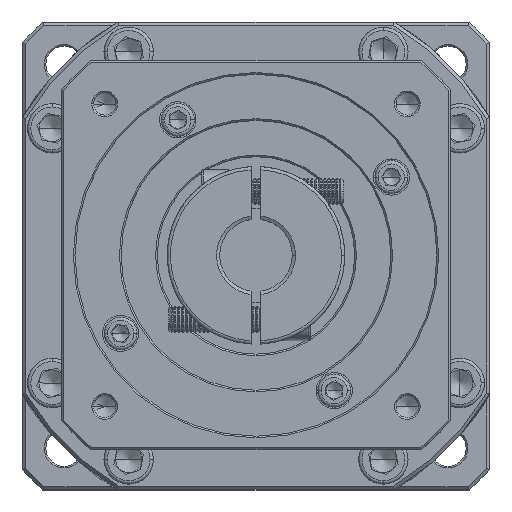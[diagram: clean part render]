
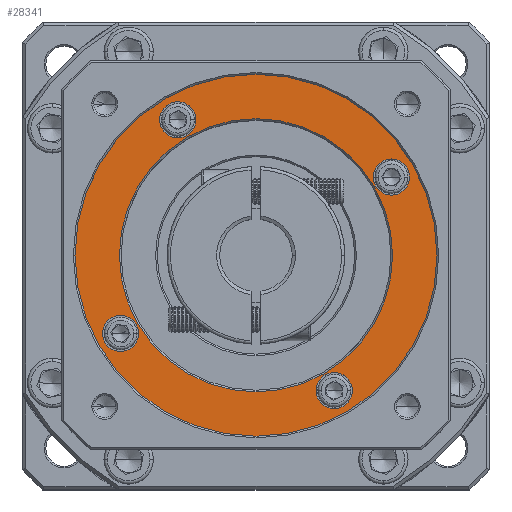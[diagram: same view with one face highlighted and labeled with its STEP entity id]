
A CAD part, top view. The second image highlights one B-rep face of the part: STEP entity #28341.
In plain terms, the highlighted planar face has unit normal (0, 0, 1).
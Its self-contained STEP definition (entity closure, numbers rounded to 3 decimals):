
#728 = EDGE_CURVE ( 'NONE', #104145, #89840, #71415, .T. ) ;
#786 = EDGE_CURVE ( 'NONE', #89840, #104145, #5584, .T. ) ;
#1175 = CARTESIAN_POINT ( 'NONE',  ( -129.323, 161.68, 0.831 ) ) ;
#2077 = CARTESIAN_POINT ( 'NONE',  ( -152.209, 96.794, 0.831 ) ) ;
#3686 = CIRCLE ( 'NONE', #8010, 55. ) ;
#3750 = DIRECTION ( 'NONE',  ( 1., 0., 0. ) ) ;
#4262 = EDGE_CURVE ( 'NONE', #91504, #66320, #113050, .T. ) ;
#5584 = CIRCLE ( 'NONE', #67622, 5.5 ) ;
#6021 = AXIS2_PLACEMENT_3D ( 'NONE', #30015, #95577, #105538 ) ;
#8010 = AXIS2_PLACEMENT_3D ( 'NONE', #14123, #35880, #3750 ) ;
#8895 = CARTESIAN_POINT ( 'NONE',  ( -111.073, 120.544, 0.831 ) ) ;
#10526 = EDGE_LOOP ( 'NONE', ( #29374, #14687 ) ) ;
#14123 = CARTESIAN_POINT ( 'NONE',  ( -111.073, 120.544, 0.831 ) ) ;
#14687 = ORIENTED_EDGE ( 'NONE', *, *, #55525, .T. ) ;
#16745 = CARTESIAN_POINT ( 'NONE',  ( -87.323, 79.408, 0.831 ) ) ;
#17011 = ORIENTED_EDGE ( 'NONE', *, *, #728, .T. ) ;
#17504 = EDGE_CURVE ( 'NONE', #90517, #101755, #106693, .T. ) ;
#20062 = CARTESIAN_POINT ( 'NONE',  ( -111.073, 120.544, 0.831 ) ) ;
#23105 = EDGE_LOOP ( 'NONE', ( #37655, #85323 ) ) ;
#24485 = CARTESIAN_POINT ( 'NONE',  ( -75.437, 144.294, 0.831 ) ) ;
#26118 = VERTEX_POINT ( 'NONE', #61622 ) ;
#26869 = AXIS2_PLACEMENT_3D ( 'NONE', #64032, #52725, #127273 ) ;
#28341 = ADVANCED_FACE ( 'NONE', ( #89244, #134921, #114591, #45447, #67290, #138314 ), #34692, .T. ) ;
#29374 = ORIENTED_EDGE ( 'NONE', *, *, #17504, .T. ) ;
#30015 = CARTESIAN_POINT ( 'NONE',  ( -152.209, 96.794, 0.831 ) ) ;
#30471 = DIRECTION ( 'NONE',  ( 1., 0., 0. ) ) ;
#33322 = DIRECTION ( 'NONE',  ( 1., 0., 0. ) ) ;
#33653 = ORIENTED_EDGE ( 'NONE', *, *, #133099, .T. ) ;
#34692 = PLANE ( 'NONE',  #71847 ) ;
#35880 = DIRECTION ( 'NONE',  ( 0., 0., 1. ) ) ;
#37655 = ORIENTED_EDGE ( 'NONE', *, *, #78776, .T. ) ;
#38777 = EDGE_CURVE ( 'NONE', #137145, #58151, #104865, .T. ) ;
#39464 = CARTESIAN_POINT ( 'NONE',  ( -134.823, 161.68, 0.831 ) ) ;
#41655 = EDGE_LOOP ( 'NONE', ( #17011, #123037 ) ) ;
#43181 = CIRCLE ( 'NONE', #6021, 5.5 ) ;
#45447 = FACE_BOUND ( 'NONE', #72057, .T. ) ;
#45583 = DIRECTION ( 'NONE',  ( 1., 0., 0. ) ) ;
#46875 = DIRECTION ( 'NONE',  ( 0., 0., -1. ) ) ;
#47591 = DIRECTION ( 'NONE',  ( 0., 0., -1. ) ) ;
#48389 = DIRECTION ( 'NONE',  ( 0., 0., -1. ) ) ;
#50177 = AXIS2_PLACEMENT_3D ( 'NONE', #132997, #47591, #89562 ) ;
#51119 = ORIENTED_EDGE ( 'NONE', *, *, #81484, .T. ) ;
#51968 = AXIS2_PLACEMENT_3D ( 'NONE', #20062, #97948, #33322 ) ;
#52133 = ORIENTED_EDGE ( 'NONE', *, *, #107028, .T. ) ;
#52725 = DIRECTION ( 'NONE',  ( 0., 0., -1. ) ) ;
#53090 = CARTESIAN_POINT ( 'NONE',  ( -134.823, 161.68, 0.831 ) ) ;
#53920 = DIRECTION ( 'NONE',  ( 0., -1., 0. ) ) ;
#55525 = EDGE_CURVE ( 'NONE', #101755, #90517, #127650, .T. ) ;
#55535 = DIRECTION ( 'NONE',  ( 0., 0., -1. ) ) ;
#58151 = VERTEX_POINT ( 'NONE', #128671 ) ;
#60785 = ORIENTED_EDGE ( 'NONE', *, *, #101069, .T. ) ;
#61488 = EDGE_CURVE ( 'NONE', #26118, #106279, #105763, .T. ) ;
#61622 = CARTESIAN_POINT ( 'NONE',  ( -56.073, 120.544, 0.831 ) ) ;
#64032 = CARTESIAN_POINT ( 'NONE',  ( -69.937, 144.294, 0.831 ) ) ;
#65215 = CARTESIAN_POINT ( 'NONE',  ( -146.709, 96.794, 0.831 ) ) ;
#65410 = CARTESIAN_POINT ( 'NONE',  ( -64.437, 144.294, 0.831 ) ) ;
#66290 = CARTESIAN_POINT ( 'NONE',  ( -111.073, 120.544, 0.831 ) ) ;
#66320 = VERTEX_POINT ( 'NONE', #68661 ) ;
#66337 = CARTESIAN_POINT ( 'NONE',  ( -87.323, 79.408, 0.831 ) ) ;
#67290 = FACE_BOUND ( 'NONE', #41655, .T. ) ;
#67622 = AXIS2_PLACEMENT_3D ( 'NONE', #53090, #95088, #30471 ) ;
#68661 = CARTESIAN_POINT ( 'NONE',  ( -81.823, 79.408, 0.831 ) ) ;
#70974 = EDGE_LOOP ( 'NONE', ( #94561, #51119 ) ) ;
#71415 = CIRCLE ( 'NONE', #94752, 5.5 ) ;
#71847 = AXIS2_PLACEMENT_3D ( 'NONE', #66290, #108793, #45583 ) ;
#72057 = EDGE_LOOP ( 'NONE', ( #52133, #110495 ) ) ;
#78776 = EDGE_CURVE ( 'NONE', #58151, #137145, #129945, .T. ) ;
#81484 = EDGE_CURVE ( 'NONE', #106279, #26118, #3686, .T. ) ;
#85323 = ORIENTED_EDGE ( 'NONE', *, *, #38777, .T. ) ;
#87516 = AXIS2_PLACEMENT_3D ( 'NONE', #2077, #46875, #88376 ) ;
#88098 = VERTEX_POINT ( 'NONE', #65215 ) ;
#88376 = DIRECTION ( 'NONE',  ( 1., 0., 0. ) ) ;
#89244 = FACE_OUTER_BOUND ( 'NONE', #70974, .T. ) ;
#89562 = DIRECTION ( 'NONE',  ( 1., 0., 0. ) ) ;
#89840 = VERTEX_POINT ( 'NONE', #134120 ) ;
#90517 = VERTEX_POINT ( 'NONE', #65410 ) ;
#91504 = VERTEX_POINT ( 'NONE', #115977 ) ;
#91622 = AXIS2_PLACEMENT_3D ( 'NONE', #16745, #48389, #103122 ) ;
#94159 = DIRECTION ( 'NONE',  ( 0., 0., -1. ) ) ;
#94561 = ORIENTED_EDGE ( 'NONE', *, *, #61488, .T. ) ;
#94752 = AXIS2_PLACEMENT_3D ( 'NONE', #39464, #94159, #136196 ) ;
#95088 = DIRECTION ( 'NONE',  ( 0., 0., -1. ) ) ;
#95577 = DIRECTION ( 'NONE',  ( 0., 0., -1. ) ) ;
#96004 = EDGE_LOOP ( 'NONE', ( #33653, #60785 ) ) ;
#97639 = AXIS2_PLACEMENT_3D ( 'NONE', #8895, #139117, #105153 ) ;
#97948 = DIRECTION ( 'NONE',  ( 0., 0., 1. ) ) ;
#101069 = EDGE_CURVE ( 'NONE', #131020, #88098, #117550, .T. ) ;
#101755 = VERTEX_POINT ( 'NONE', #24485 ) ;
#103122 = DIRECTION ( 'NONE',  ( 1., 0., 0. ) ) ;
#104145 = VERTEX_POINT ( 'NONE', #1175 ) ;
#104865 = CIRCLE ( 'NONE', #97639, 41.5 ) ;
#105153 = DIRECTION ( 'NONE',  ( 0., -1., 0. ) ) ;
#105538 = DIRECTION ( 'NONE',  ( 1., 0., 0. ) ) ;
#105763 = CIRCLE ( 'NONE', #51968, 55. ) ;
#106279 = VERTEX_POINT ( 'NONE', #131748 ) ;
#106693 = CIRCLE ( 'NONE', #26869, 5.5 ) ;
#107028 = EDGE_CURVE ( 'NONE', #66320, #91504, #114518, .T. ) ;
#108793 = DIRECTION ( 'NONE',  ( 0., 0., 1. ) ) ;
#109790 = DIRECTION ( 'NONE',  ( 1., 0., 0. ) ) ;
#110495 = ORIENTED_EDGE ( 'NONE', *, *, #4262, .T. ) ;
#113050 = CIRCLE ( 'NONE', #91622, 5.5 ) ;
#114518 = CIRCLE ( 'NONE', #128098, 5.5 ) ;
#114591 = FACE_BOUND ( 'NONE', #10526, .T. ) ;
#115977 = CARTESIAN_POINT ( 'NONE',  ( -92.823, 79.408, 0.831 ) ) ;
#117550 = CIRCLE ( 'NONE', #87516, 5.5 ) ;
#118541 = DIRECTION ( 'NONE',  ( 0., 0., -1. ) ) ;
#123037 = ORIENTED_EDGE ( 'NONE', *, *, #786, .T. ) ;
#123462 = CARTESIAN_POINT ( 'NONE',  ( -111.073, 162.044, 0.831 ) ) ;
#123992 = CARTESIAN_POINT ( 'NONE',  ( -157.709, 96.794, 0.831 ) ) ;
#127273 = DIRECTION ( 'NONE',  ( 1., 0., 0. ) ) ;
#127650 = CIRCLE ( 'NONE', #50177, 5.5 ) ;
#128098 = AXIS2_PLACEMENT_3D ( 'NONE', #66337, #55535, #109790 ) ;
#128671 = CARTESIAN_POINT ( 'NONE',  ( -111.073, 79.044, 0.831 ) ) ;
#129945 = CIRCLE ( 'NONE', #137807, 41.5 ) ;
#131020 = VERTEX_POINT ( 'NONE', #123992 ) ;
#131748 = CARTESIAN_POINT ( 'NONE',  ( -166.073, 120.544, 0.831 ) ) ;
#132997 = CARTESIAN_POINT ( 'NONE',  ( -69.937, 144.294, 0.831 ) ) ;
#133099 = EDGE_CURVE ( 'NONE', #88098, #131020, #43181, .T. ) ;
#134120 = CARTESIAN_POINT ( 'NONE',  ( -140.323, 161.68, 0.831 ) ) ;
#134921 = FACE_BOUND ( 'NONE', #23105, .T. ) ;
#136196 = DIRECTION ( 'NONE',  ( 1., 0., 0. ) ) ;
#137145 = VERTEX_POINT ( 'NONE', #123462 ) ;
#137807 = AXIS2_PLACEMENT_3D ( 'NONE', #139800, #118541, #53920 ) ;
#138314 = FACE_BOUND ( 'NONE', #96004, .T. ) ;
#139117 = DIRECTION ( 'NONE',  ( 0., 0., -1. ) ) ;
#139800 = CARTESIAN_POINT ( 'NONE',  ( -111.073, 120.544, 0.831 ) ) ;
